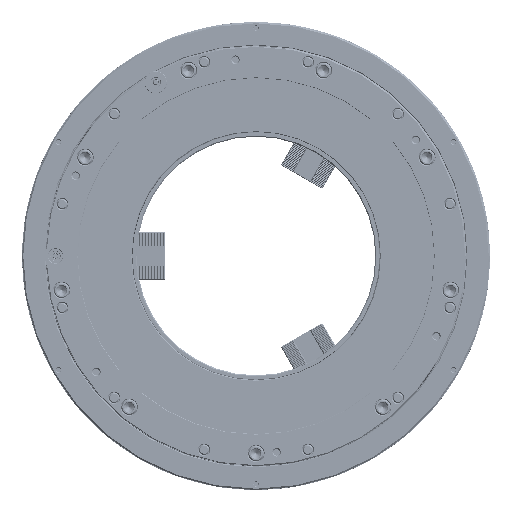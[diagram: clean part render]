
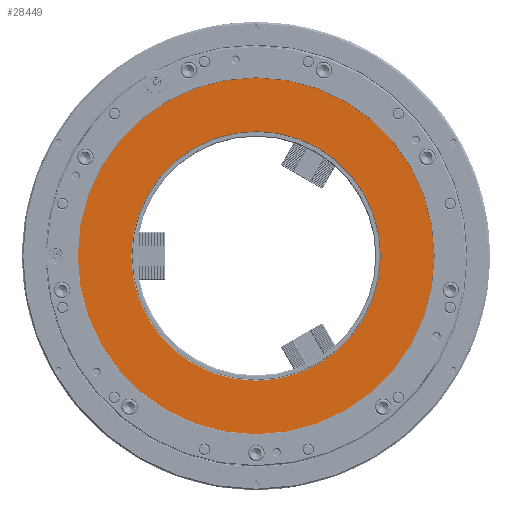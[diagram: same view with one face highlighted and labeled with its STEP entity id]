
A CAD part, left-side view. The second image highlights one B-rep face of the part: STEP entity #28449.
In plain terms, the highlighted planar face has unit normal (-1, 0, 0).
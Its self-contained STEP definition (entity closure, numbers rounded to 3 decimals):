
#26884 = CIRCLE ( 'NONE', #109451, 196. ) ;
#27482 = AXIS2_PLACEMENT_3D ( 'NONE', #56765, #35707, #134266 ) ;
#27891 = CARTESIAN_POINT ( 'NONE',  ( -20., 0., 0. ) ) ;
#28449 = ADVANCED_FACE ( 'NONE', ( #89041, #187647 ), #286196, .F. ) ;
#35707 = DIRECTION ( 'NONE',  ( 1., 0., 0. ) ) ;
#39469 = AXIS2_PLACEMENT_3D ( 'NONE', #27891, #76377, #100594 ) ;
#45744 = DIRECTION ( 'NONE',  ( 0., 0., 1. ) ) ;
#48032 = CIRCLE ( 'NONE', #27482, 280. ) ;
#56765 = CARTESIAN_POINT ( 'NONE',  ( -20., 0., 0. ) ) ;
#64824 = CARTESIAN_POINT ( 'NONE',  ( -20., 196., 0. ) ) ;
#76320 = ORIENTED_EDGE ( 'NONE', *, *, #191550, .F. ) ;
#76377 = DIRECTION ( 'NONE',  ( 1., 0., 0. ) ) ;
#77075 = VERTEX_POINT ( 'NONE', #220257 ) ;
#84962 = DIRECTION ( 'NONE',  ( 0., 0., 1. ) ) ;
#86960 = EDGE_LOOP ( 'NONE', ( #239962, #180825 ) ) ;
#89041 = FACE_OUTER_BOUND ( 'NONE', #119607, .T. ) ;
#90828 = EDGE_CURVE ( 'NONE', #125039, #130845, #26884, .T. ) ;
#100594 = DIRECTION ( 'NONE',  ( 0., 0., 1. ) ) ;
#109451 = AXIS2_PLACEMENT_3D ( 'NONE', #157753, #201419, #84962 ) ;
#118471 = CARTESIAN_POINT ( 'NONE',  ( -20., 0., 0. ) ) ;
#119607 = EDGE_LOOP ( 'NONE', ( #286896, #76320 ) ) ;
#125039 = VERTEX_POINT ( 'NONE', #141040 ) ;
#130845 = VERTEX_POINT ( 'NONE', #229141 ) ;
#133770 = EDGE_CURVE ( 'NONE', #130845, #125039, #155319, .T. ) ;
#134266 = DIRECTION ( 'NONE',  ( 0., 0., 1. ) ) ;
#140724 = DIRECTION ( 'NONE',  ( 1., 0., 0. ) ) ;
#141040 = CARTESIAN_POINT ( 'NONE',  ( -20., 0., -196. ) ) ;
#155319 = CIRCLE ( 'NONE', #237616, 196. ) ;
#157753 = CARTESIAN_POINT ( 'NONE',  ( -20., 0., 0. ) ) ;
#178781 = CIRCLE ( 'NONE', #39469, 280. ) ;
#180825 = ORIENTED_EDGE ( 'NONE', *, *, #90828, .T. ) ;
#182214 = EDGE_CURVE ( 'NONE', #77075, #287026, #48032, .T. ) ;
#187647 = FACE_BOUND ( 'NONE', #86960, .T. ) ;
#191550 = EDGE_CURVE ( 'NONE', #287026, #77075, #178781, .T. ) ;
#201419 = DIRECTION ( 'NONE',  ( 1., 0., 0. ) ) ;
#213484 = DIRECTION ( 'NONE',  ( 0., 0., -1. ) ) ;
#220257 = CARTESIAN_POINT ( 'NONE',  ( -20., 0., 280. ) ) ;
#229141 = CARTESIAN_POINT ( 'NONE',  ( -20., 0., 196. ) ) ;
#237616 = AXIS2_PLACEMENT_3D ( 'NONE', #118471, #315615, #45744 ) ;
#239962 = ORIENTED_EDGE ( 'NONE', *, *, #133770, .T. ) ;
#258835 = CARTESIAN_POINT ( 'NONE',  ( -20., 0., -280. ) ) ;
#286196 = PLANE ( 'NONE',  #306200 ) ;
#286896 = ORIENTED_EDGE ( 'NONE', *, *, #182214, .F. ) ;
#287026 = VERTEX_POINT ( 'NONE', #258835 ) ;
#306200 = AXIS2_PLACEMENT_3D ( 'NONE', #64824, #140724, #213484 ) ;
#315615 = DIRECTION ( 'NONE',  ( 1., 0., 0. ) ) ;
